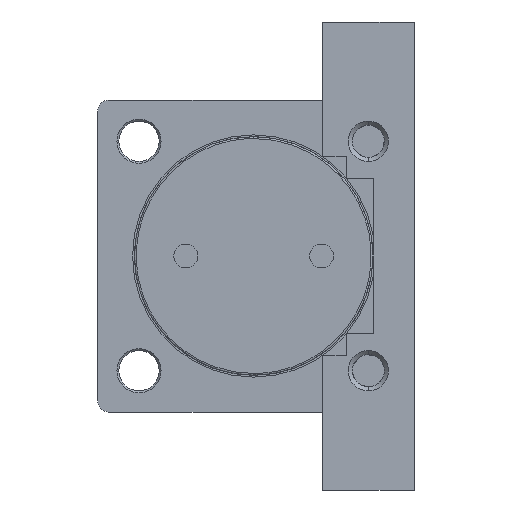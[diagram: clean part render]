
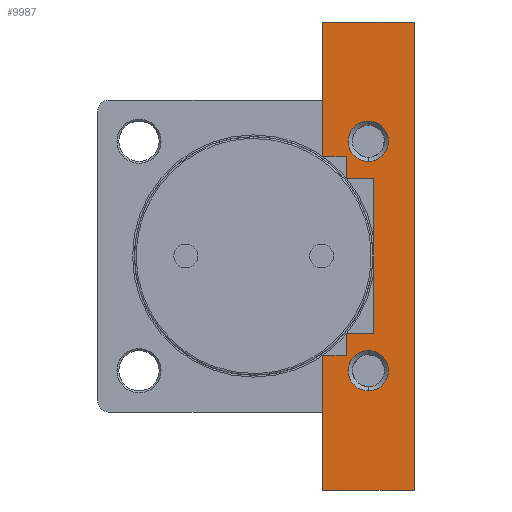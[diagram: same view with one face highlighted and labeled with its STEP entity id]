
A CAD part, left-side view. The second image highlights one B-rep face of the part: STEP entity #9987.
In plain terms, the highlighted planar face has unit normal (1, 0, 0).
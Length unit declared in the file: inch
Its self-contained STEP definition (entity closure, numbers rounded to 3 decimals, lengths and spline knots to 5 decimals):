
#107 = VERTEX_POINT ( 'NONE', #1962 ) ;
#274 = CIRCLE ( 'NONE', #10029, 0.43307 ) ;
#290 = ORIENTED_EDGE ( 'NONE', *, *, #8635, .T. ) ;
#1387 = VERTEX_POINT ( 'NONE', #4816 ) ;
#1690 = ORIENTED_EDGE ( 'NONE', *, *, #8401, .T. ) ;
#1891 = VERTEX_POINT ( 'NONE', #13519 ) ;
#1962 = CARTESIAN_POINT ( 'NONE',  ( -3.01181, -1.98819, 2.12598 ) ) ;
#2221 = DIRECTION ( 'NONE',  ( 0., 1., 0. ) ) ;
#2409 = EDGE_LOOP ( 'NONE', ( #5670, #9663 ) ) ;
#3155 = ORIENTED_EDGE ( 'NONE', *, *, #8126, .T. ) ;
#3282 = EDGE_LOOP ( 'NONE', ( #12623, #3446, #9352, #5783, #290, #11779, #1690, #10614, #3155, #5021, #5678, #11431 ) ) ;
#3446 = ORIENTED_EDGE ( 'NONE', *, *, #9236, .T. ) ;
#3678 = CARTESIAN_POINT ( 'NONE',  ( -3.01181, -3.44488, -5.01969 ) ) ;
#3962 = DIRECTION ( 'NONE',  ( 0., 0., 1. ) ) ;
#4016 = CARTESIAN_POINT ( 'NONE',  ( -3.01181, -1.47638, 5.01969 ) ) ;
#4350 = CARTESIAN_POINT ( 'NONE',  ( -3.01181, -1.47638, -2.12598 ) ) ;
#4764 = CARTESIAN_POINT ( 'NONE',  ( -3.01181, -1.98819, 1.65354 ) ) ;
#4816 = CARTESIAN_POINT ( 'NONE',  ( -3.01181, -1.47638, 2.12598 ) ) ;
#4872 = CARTESIAN_POINT ( 'NONE',  ( -3.01181, -2.46063, 2.02756 ) ) ;
#4913 = VERTEX_POINT ( 'NONE', #5000 ) ;
#4958 = VERTEX_POINT ( 'NONE', #4872 ) ;
#5000 = CARTESIAN_POINT ( 'NONE',  ( -3.01181, -1.98819, -1.65354 ) ) ;
#5021 = ORIENTED_EDGE ( 'NONE', *, *, #7890, .T. ) ;
#5058 = ORIENTED_EDGE ( 'NONE', *, *, #11650, .T. ) ;
#5531 = VERTEX_POINT ( 'NONE', #6177 ) ;
#5670 = ORIENTED_EDGE ( 'NONE', *, *, #13404, .T. ) ;
#5678 = ORIENTED_EDGE ( 'NONE', *, *, #7772, .T. ) ;
#5783 = ORIENTED_EDGE ( 'NONE', *, *, #10137, .F. ) ;
#5797 = VERTEX_POINT ( 'NONE', #13495 ) ;
#5878 = VERTEX_POINT ( 'NONE', #13277 ) ;
#5921 = DIRECTION ( 'NONE',  ( 0., -1., 0. ) ) ;
#6115 = DIRECTION ( 'NONE',  ( 0., -1., 0. ) ) ;
#6156 = CARTESIAN_POINT ( 'NONE',  ( -3.01181, -3.44488, -2.12598 ) ) ;
#6177 = CARTESIAN_POINT ( 'NONE',  ( -3.01181, -2.46063, -2.8937 ) ) ;
#6249 = CARTESIAN_POINT ( 'NONE',  ( -3.01181, -1.98819, -2.12598 ) ) ;
#6298 = DIRECTION ( 'NONE',  ( 0., 0., 1. ) ) ;
#6307 = CARTESIAN_POINT ( 'NONE',  ( -3.01181, -1.98819, 5.01969 ) ) ;
#6339 = CARTESIAN_POINT ( 'NONE',  ( -3.01181, -2.57874, 1.65354 ) ) ;
#6511 = VERTEX_POINT ( 'NONE', #9077 ) ;
#6672 = AXIS2_PLACEMENT_3D ( 'NONE', #7990, #7978, #7961 ) ;
#7027 = DIRECTION ( 'NONE',  ( 0., 0., 1. ) ) ;
#7060 = DIRECTION ( 'NONE',  ( -1., 0., 0. ) ) ;
#7065 = CARTESIAN_POINT ( 'NONE',  ( -3.01181, -2.46063, 2.46063 ) ) ;
#7347 = CARTESIAN_POINT ( 'NONE',  ( -3.01181, -3.44488, -1.65354 ) ) ;
#7574 = EDGE_CURVE ( 'NONE', #11973, #107, #10516, .T. ) ;
#7772 = EDGE_CURVE ( 'NONE', #8361, #11973, #10871, .T. ) ;
#7816 = DIRECTION ( 'NONE',  ( 0., -1., 0. ) ) ;
#7890 = EDGE_CURVE ( 'NONE', #5797, #8361, #11173, .T. ) ;
#7961 = DIRECTION ( 'NONE',  ( 0., 0., 1. ) ) ;
#7978 = DIRECTION ( 'NONE',  ( -1., 0., 0. ) ) ;
#7990 = CARTESIAN_POINT ( 'NONE',  ( -3.01181, -2.46063, -2.46063 ) ) ;
#8126 = EDGE_CURVE ( 'NONE', #4913, #5797, #11459, .T. ) ;
#8356 = EDGE_CURVE ( 'NONE', #10423, #4913, #11873, .T. ) ;
#8361 = VERTEX_POINT ( 'NONE', #6339 ) ;
#8401 = EDGE_CURVE ( 'NONE', #8448, #10423, #12098, .T. ) ;
#8448 = VERTEX_POINT ( 'NONE', #4350 ) ;
#8546 = EDGE_CURVE ( 'NONE', #6511, #8448, #12257, .T. ) ;
#8635 = EDGE_CURVE ( 'NONE', #8938, #6511, #12359, .T. ) ;
#8808 = CARTESIAN_POINT ( 'NONE',  ( -3.01181, -2.57874, 5.01969 ) ) ;
#8898 = CIRCLE ( 'NONE', #6672, 0.43307 ) ;
#8915 = VERTEX_POINT ( 'NONE', #12852 ) ;
#8938 = VERTEX_POINT ( 'NONE', #13177 ) ;
#9069 = DIRECTION ( 'NONE',  ( 0., 0., 1. ) ) ;
#9075 = EDGE_CURVE ( 'NONE', #8915, #9957, #13066, .T. ) ;
#9077 = CARTESIAN_POINT ( 'NONE',  ( -3.01181, -1.47638, -5.01969 ) ) ;
#9224 = CARTESIAN_POINT ( 'NONE',  ( -3.01181, -3.44488, 5.01969 ) ) ;
#9236 = EDGE_CURVE ( 'NONE', #1387, #8915, #13414, .T. ) ;
#9243 = DIRECTION ( 'NONE',  ( 0., 0., 1. ) ) ;
#9267 = EDGE_CURVE ( 'NONE', #107, #1387, #13432, .T. ) ;
#9352 = ORIENTED_EDGE ( 'NONE', *, *, #9075, .T. ) ;
#9415 = DIRECTION ( 'NONE',  ( 0., 1., 0. ) ) ;
#9483 = CARTESIAN_POINT ( 'NONE',  ( -3.01181, -3.44488, 1.65354 ) ) ;
#9569 = EDGE_CURVE ( 'NONE', #5531, #1891, #13848, .T. ) ;
#9663 = ORIENTED_EDGE ( 'NONE', *, *, #9569, .T. ) ;
#9737 = DIRECTION ( 'NONE',  ( 0., 0., -1. ) ) ;
#9745 = DIRECTION ( 'NONE',  ( 1., 0., 0. ) ) ;
#9750 = EDGE_CURVE ( 'NONE', #4958, #5878, #14021, .T. ) ;
#9775 = CARTESIAN_POINT ( 'NONE',  ( -3.01181, -3.44488, 5.01969 ) ) ;
#9845 = PLANE ( 'NONE',  #12971 ) ;
#9957 = VERTEX_POINT ( 'NONE', #10203 ) ;
#9987 = ADVANCED_FACE ( 'NONE', ( #14208, #14236, #14249 ), #9845, .T. ) ;
#10029 = AXIS2_PLACEMENT_3D ( 'NONE', #7065, #7060, #7027 ) ;
#10137 = EDGE_CURVE ( 'NONE', #8938, #9957, #14471, .T. ) ;
#10203 = CARTESIAN_POINT ( 'NONE',  ( -3.01181, -3.44488, 5.01969 ) ) ;
#10423 = VERTEX_POINT ( 'NONE', #6249 ) ;
#10516 = LINE ( 'NONE', #12340, #10521 ) ;
#10521 = VECTOR ( 'NONE', #12356, 39.37008 ) ;
#10568 = DIRECTION ( 'NONE',  ( 0., 0., 1. ) ) ;
#10598 = DIRECTION ( 'NONE',  ( -1., 0., 0. ) ) ;
#10614 = ORIENTED_EDGE ( 'NONE', *, *, #8356, .T. ) ;
#10637 = ORIENTED_EDGE ( 'NONE', *, *, #9750, .T. ) ;
#10651 = CARTESIAN_POINT ( 'NONE',  ( -3.01181, -2.46063, 2.46063 ) ) ;
#10871 = LINE ( 'NONE', #9483, #10885 ) ;
#10885 = VECTOR ( 'NONE', #9415, 39.37008 ) ;
#11138 = DIRECTION ( 'NONE',  ( 0., 0., 1. ) ) ;
#11142 = VECTOR ( 'NONE', #9069, 39.37008 ) ;
#11155 = DIRECTION ( 'NONE',  ( -1., 0., 0. ) ) ;
#11171 = CARTESIAN_POINT ( 'NONE',  ( -3.01181, -2.46063, -2.46063 ) ) ;
#11173 = LINE ( 'NONE', #8808, #11142 ) ;
#11362 = VECTOR ( 'NONE', #7816, 39.37008 ) ;
#11431 = ORIENTED_EDGE ( 'NONE', *, *, #7574, .T. ) ;
#11459 = LINE ( 'NONE', #7347, #11362 ) ;
#11650 = EDGE_CURVE ( 'NONE', #5878, #4958, #274, .T. ) ;
#11779 = ORIENTED_EDGE ( 'NONE', *, *, #8546, .T. ) ;
#11858 = VECTOR ( 'NONE', #6298, 39.37008 ) ;
#11873 = LINE ( 'NONE', #6307, #11858 ) ;
#11973 = VERTEX_POINT ( 'NONE', #4764 ) ;
#12072 = VECTOR ( 'NONE', #6115, 39.37008 ) ;
#12091 = EDGE_LOOP ( 'NONE', ( #5058, #10637 ) ) ;
#12098 = LINE ( 'NONE', #6156, #12072 ) ;
#12110 = CARTESIAN_POINT ( 'NONE',  ( -3.01181, -3.44488, 5.01969 ) ) ;
#12257 = LINE ( 'NONE', #4016, #12260 ) ;
#12260 = VECTOR ( 'NONE', #3962, 39.37008 ) ;
#12340 = CARTESIAN_POINT ( 'NONE',  ( -3.01181, -1.98819, 5.01969 ) ) ;
#12356 = DIRECTION ( 'NONE',  ( 0., 0., 1. ) ) ;
#12359 = LINE ( 'NONE', #3678, #12374 ) ;
#12374 = VECTOR ( 'NONE', #2221, 39.37008 ) ;
#12623 = ORIENTED_EDGE ( 'NONE', *, *, #9267, .T. ) ;
#12852 = CARTESIAN_POINT ( 'NONE',  ( -3.01181, -1.47638, 5.01969 ) ) ;
#12971 = AXIS2_PLACEMENT_3D ( 'NONE', #9775, #9745, #9737 ) ;
#13066 = LINE ( 'NONE', #12110, #13174 ) ;
#13174 = VECTOR ( 'NONE', #5921, 39.37008 ) ;
#13177 = CARTESIAN_POINT ( 'NONE',  ( -3.01181, -3.44488, -5.01969 ) ) ;
#13277 = CARTESIAN_POINT ( 'NONE',  ( -3.01181, -2.46063, 2.8937 ) ) ;
#13329 = VECTOR ( 'NONE', #14833, 39.37008 ) ;
#13404 = EDGE_CURVE ( 'NONE', #1891, #5531, #8898, .T. ) ;
#13414 = LINE ( 'NONE', #14357, #13329 ) ;
#13432 = LINE ( 'NONE', #14221, #13463 ) ;
#13446 = AXIS2_PLACEMENT_3D ( 'NONE', #10651, #10598, #10568 ) ;
#13463 = VECTOR ( 'NONE', #14206, 39.37008 ) ;
#13495 = CARTESIAN_POINT ( 'NONE',  ( -3.01181, -2.57874, -1.65354 ) ) ;
#13519 = CARTESIAN_POINT ( 'NONE',  ( -3.01181, -2.46063, -2.02756 ) ) ;
#13694 = AXIS2_PLACEMENT_3D ( 'NONE', #11171, #11155, #11138 ) ;
#13848 = CIRCLE ( 'NONE', #13694, 0.43307 ) ;
#14021 = CIRCLE ( 'NONE', #13446, 0.43307 ) ;
#14206 = DIRECTION ( 'NONE',  ( 0., 1., 0. ) ) ;
#14208 = FACE_BOUND ( 'NONE', #12091, .T. ) ;
#14221 = CARTESIAN_POINT ( 'NONE',  ( -3.01181, -3.44488, 2.12598 ) ) ;
#14236 = FACE_BOUND ( 'NONE', #2409, .T. ) ;
#14249 = FACE_OUTER_BOUND ( 'NONE', #3282, .T. ) ;
#14357 = CARTESIAN_POINT ( 'NONE',  ( -3.01181, -1.47638, 5.01969 ) ) ;
#14471 = LINE ( 'NONE', #9224, #14516 ) ;
#14516 = VECTOR ( 'NONE', #9243, 39.37008 ) ;
#14833 = DIRECTION ( 'NONE',  ( 0., 0., 1. ) ) ;
